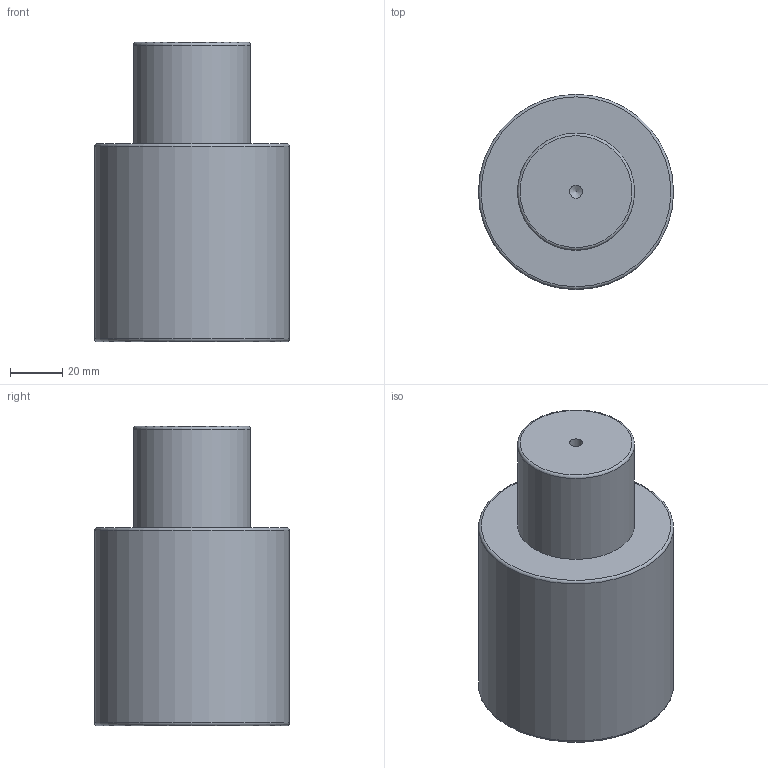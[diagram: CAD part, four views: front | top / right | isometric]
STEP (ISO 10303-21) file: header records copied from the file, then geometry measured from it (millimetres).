
FILE_DESCRIPTION(/* description */ (''),/* implementation_level */ '2;1');
FILE_NAME(/* name */ 'NV5-SMLX.75x38.stp',/* time_stamp */ '2018-08-31T16:08:29+02:00',/* author */ (''),/* organization */ (''),/* preprocessor_version */ 'ST-DEVELOPER v16',/* originating_system */ 'SIEMENS PLM Software NX 10.0',/* authorisation */ '');
FILE_SCHEMA (('AUTOMOTIVE_DESIGN { 1 0 10303 214 3 1 1 1 }'));
Length unit declared in the file: millimetre
Products named in the file (1): NV5-SMLX.75x38
Bounding box: 75 x 75 x 115 mm (x, y, z)
Volume: 395675.8 mm3; surface area: 32829.1 mm2
Topology: 1 solids, 1 shells, 12 faces, 24 edges, 15 vertices
Faces by surface type: cylinder 4, torus 3, plane 3, cone 2
Full cylindrical faces by diameter (mm): 5 x1, 10.3 x1, 45 x1, 75 x1
Entity records: 266 total; most frequent: DIRECTION 48, CARTESIAN_POINT 37, FACE_BOUND 24, AXIS2_PLACEMENT_3D 24, EDGE_LOOP 22, ORIENTED_EDGE 22, VERTEX_POINT 13, ADVANCED_FACE 12
